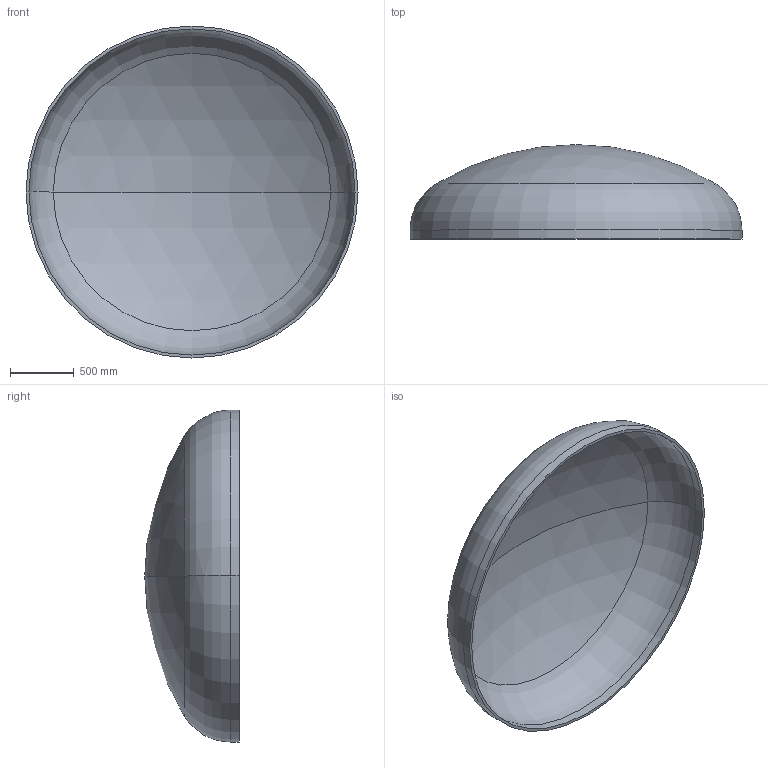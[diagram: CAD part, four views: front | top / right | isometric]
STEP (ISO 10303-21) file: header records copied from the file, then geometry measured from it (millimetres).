
FILE_DESCRIPTION (( 'STEP AP203' ), '1' );
FILE_NAME ('DIN 28013 Korbbogenform_-_Boden DIN 28013 - 2600 x 70 - I - s=23.step', '2016-07-01T16:00:45', ( '' ), ( '' ), 'SwSTEP 2.0', 'SolidWorks 2013', '' );
FILE_SCHEMA (( 'CONFIG_CONTROL_DESIGN' ));
Length unit declared in the file: millimetre
Products named in the file (1): DIN 28013 Korbbogenform_-_Boden DIN 28013 - 2600 x 70 - I - s=23
Bounding box: 2600 x 740.08 x 2600 mm (x, y, z)
Volume: 180160850.6 mm3; surface area: 15853468.3 mm2
Topology: 1 solids, 1 shells, 13 faces, 24 edges, 14 vertices
Faces by surface type: torus 4, cylinder 4, sphere 4, plane 1
Entity records: 407 total; most frequent: DIRECTION 72, CARTESIAN_POINT 52, ORIENTED_EDGE 48, AXIS2_PLACEMENT_3D 34, EDGE_CURVE 24, CIRCLE 20, VERTEX_POINT 14, EDGE_LOOP 14
